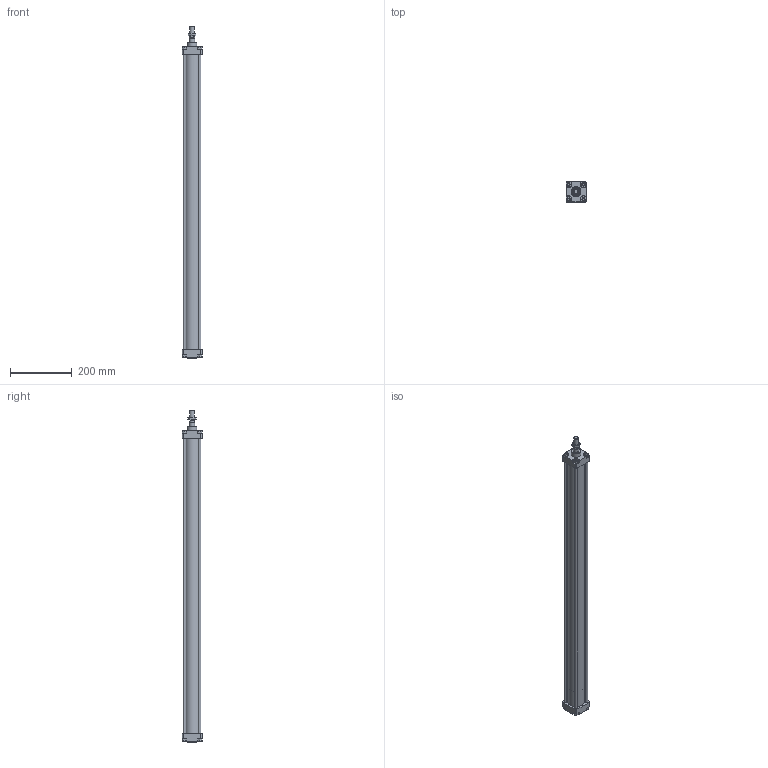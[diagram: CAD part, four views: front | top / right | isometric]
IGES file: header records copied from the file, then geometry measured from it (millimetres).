
Global section: file name: 130#_050_0900_01A; native system: Autodesk Inventor 2014; preprocessor: unknown; author: A. Manieri; date: 20161123.145602; units: millimetre
Bounding box: 65 x 65 x 1079 mm (x, y, z)
Volume: 1061194.9 mm3; surface area: 525608.7 mm2
Topology: 9 solids, 9 shells, 163 faces, 401 edges, 268 vertices
Faces by surface type: bspline 163
